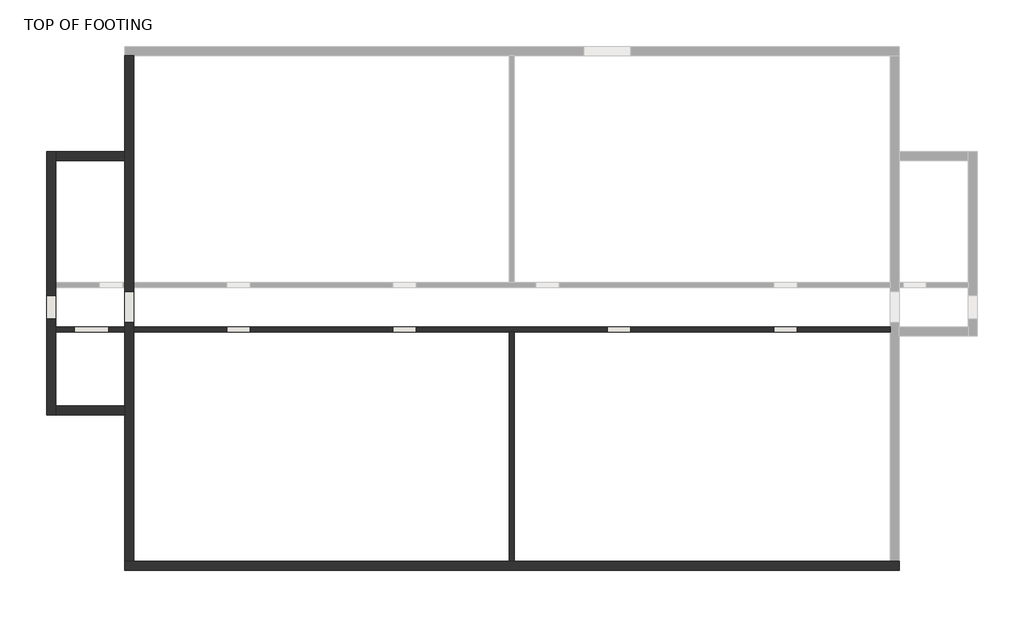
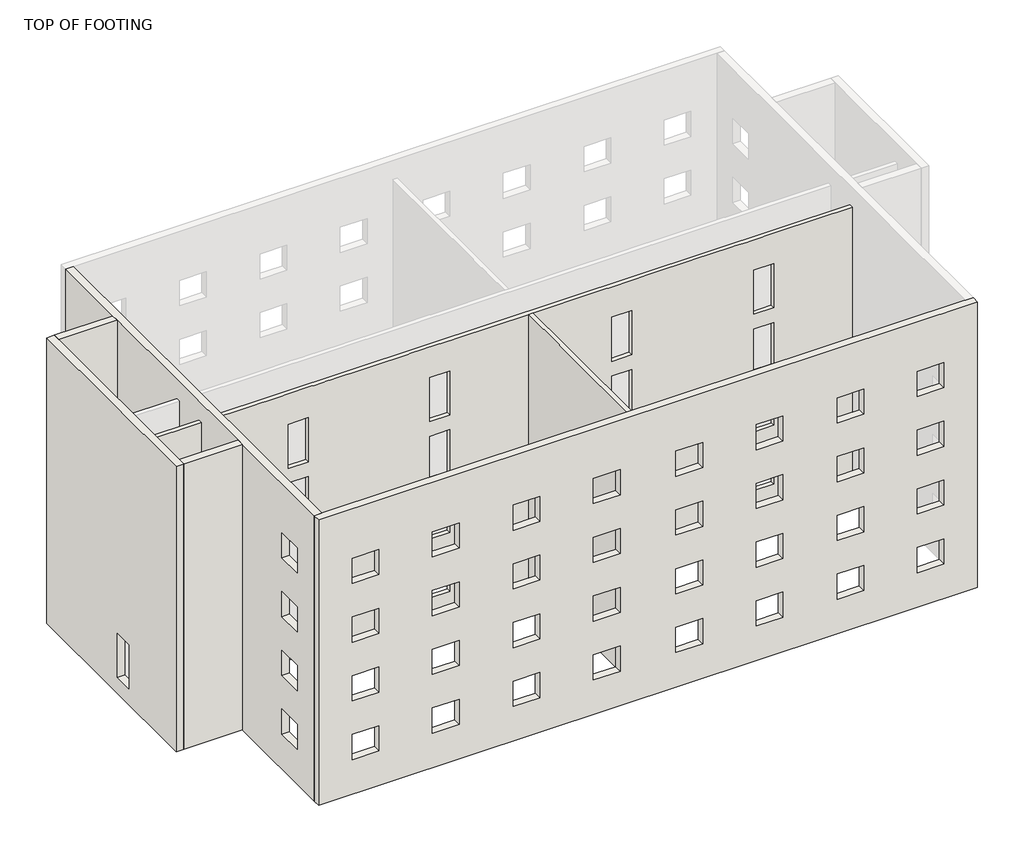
# One storey, part 1 of 2: 7 walls.
"""IFC4 building model written with IfcOpenShell, lengths in millimetres."""

from ifc_helpers import new_model, si_unit, frame, origin, place, context, project, spatial, polyline, outline, extrude, faceted_brep, element, save

model = new_model("IFC4")

# Units and contexts
model_context = context("Model", 3, world=origin())
ifc_project = project(units=[si_unit("LENGTHUNIT", "METRE", prefix="MILLI")], contexts=[model_context])

# Site, building, storey
site = spatial("IfcSite", under=ifc_project)
building = spatial("IfcBuilding", under=site)
storey = spatial("IfcBuildingStorey", under=building, Name="TOP OF FOOTING", Elevation=-762.0)

# Walls
placement = place(None, origin())
element("IfcWall", 1, ObjectType="A30A - 8\" MASONRY WALL", at=placement, inside=storey, context=model_context, shape_type="Brep", body=[
    faceted_brep([(24257.1084875, 4539.2137881, -762.0), (24257.1084875, 4539.2137881, 12141.2), (20915.5834875, 4539.2137881, 12141.2), (20791.7584875, 4539.2137881, 12141.2), (19572.5584875, 4539.2137881, 12141.2), (19448.7334875, 4539.2137881, 12141.2), (18839.1334875, 4539.2137881, 12141.2), (18715.3084875, 4539.2137881, 12141.2), (17039.7084875, 4539.2137881, 12141.2), (16845.7084875, 4539.2137881, 12141.2), (15170.1084875, 4539.2137881, 12141.2), (15046.2834875, 4539.2137881, 12141.2), (14436.6834875, 4539.2137881, 12141.2), (14312.8584875, 4539.2137881, 12141.2), (13093.6584875, 4539.2137881, 12141.2), (12969.8334875, 4539.2137881, 12141.2), (9622.1084875, 4539.2137881, 12141.2), (9428.1084875, 4539.2137881, 12141.2), (6091.9834875, 4539.2137881, 12141.2), (5968.1584875, 4539.2137881, 12141.2), (4748.9584875, 4539.2137881, 12141.2), (4625.1334875, 4539.2137881, 12141.2), (3980.6084875, 4539.2137881, 12141.2), (3891.7084875, 4539.2137881, 12141.2), (2215.3084875, 4539.2137881, 12141.2), (2021.3084875, 4539.2137881, 12141.2), (344.9084875, 4539.2137881, 12141.2), (256.0084875, 4539.2137881, 12141.2), (-388.5165125, 4539.2137881, 12141.2), (-512.3415125, 4539.2137881, 12141.2), (-1731.5415125, 4539.2137881, 12141.2), (-1855.3665125, 4539.2137881, 12141.2), (-5196.8915125, 4539.2137881, 12141.2), (-5196.8915125, 4539.2137881, -762.0), (9428.1084875, 4539.2137881, -762.0), (9622.1084875, 4539.2137881, -762.0), (-664.7415125, 4539.2137881, 0.0), (-1579.1415125, 4539.2137881, 0.0), (-1579.1415125, 4539.2137881, 2133.6), (-664.7415125, 4539.2137881, 2133.6), (5815.7584875, 4539.2137881, 0.0), (4901.3584875, 4539.2137881, 0.0), (4901.3584875, 4539.2137881, 2133.6), (5815.7584875, 4539.2137881, 2133.6), (20639.3584875, 4539.2137881, 0.0), (19724.9584875, 4539.2137881, 0.0), (19724.9584875, 4539.2137881, 2133.6), (20639.3584875, 4539.2137881, 2133.6), (14160.4584875, 4539.2137881, 0.0), (13246.0584875, 4539.2137881, 0.0), (13246.0584875, 4539.2137881, 2133.6), (14160.4584875, 4539.2137881, 2133.6), (-664.7415125, 4539.2137881, 2844.8), (-1579.1415125, 4539.2137881, 2844.8), (-1579.1415125, 4539.2137881, 4978.4), (-664.7415125, 4539.2137881, 4978.4), (5815.7584875, 4539.2137881, 2844.8), (4901.3584875, 4539.2137881, 2844.8), (4901.3584875, 4539.2137881, 4978.4), (5815.7584875, 4539.2137881, 4978.4), (14148.8584875, 4539.2137881, 2844.8), (13234.4584875, 4539.2137881, 2844.8), (13234.4584875, 4539.2137881, 4978.4), (14148.8584875, 4539.2137881, 4978.4), (20650.9584875, 4539.2137881, 2844.8), (19736.5584875, 4539.2137881, 2844.8), (19736.5584875, 4539.2137881, 4978.4), (20650.9584875, 4539.2137881, 4978.4), (-664.7415125, 4539.2137881, 5689.6), (-1579.1415125, 4539.2137881, 5689.6), (-1579.1415125, 4539.2137881, 7823.2), (-664.7415125, 4539.2137881, 7823.2), (5815.7584875, 4539.2137881, 5689.6), (4901.3584875, 4539.2137881, 5689.6), (4901.3584875, 4539.2137881, 7823.2), (5815.7584875, 4539.2137881, 7823.2), (14148.8584875, 4539.2137881, 5689.6), (13234.4584875, 4539.2137881, 5689.6), (13234.4584875, 4539.2137881, 7823.2), (14148.8584875, 4539.2137881, 7823.2), (20650.9584875, 4539.2137881, 5689.6), (19736.5584875, 4539.2137881, 5689.6), (19736.5584875, 4539.2137881, 7823.2), (20650.9584875, 4539.2137881, 7823.2), (-664.7415125, 4539.2137881, 8534.4), (-1579.1415125, 4539.2137881, 8534.4), (-1579.1415125, 4539.2137881, 10668.0), (-664.7415125, 4539.2137881, 10668.0), (5815.7584875, 4539.2137881, 8534.4), (4901.3584875, 4539.2137881, 8534.4), (4901.3584875, 4539.2137881, 10668.0), (5815.7584875, 4539.2137881, 10668.0), (14148.8584875, 4539.2137881, 8534.4), (13234.4584875, 4539.2137881, 8534.4), (13234.4584875, 4539.2137881, 10668.0), (14148.8584875, 4539.2137881, 10668.0), (20650.9584875, 4539.2137881, 8534.4), (19736.5584875, 4539.2137881, 8534.4), (19736.5584875, 4539.2137881, 10668.0), (20650.9584875, 4539.2137881, 10668.0), (24257.1084875, 4733.2137881, 12141.2), (24257.1084875, 4733.2137881, -762.0), (-5196.8915125, 4733.2137881, -762.0), (-5196.8915125, 4733.2137881, 12141.2), (-1579.1415125, 4733.2137881, 0.0), (-664.7415125, 4733.2137881, 0.0), (-664.7415125, 4733.2137881, 2133.6), (-1579.1415125, 4733.2137881, 2133.6), (4901.3584875, 4733.2137881, 0.0), (5815.7584875, 4733.2137881, 0.0), (5815.7584875, 4733.2137881, 2133.6), (4901.3584875, 4733.2137881, 2133.6), (19724.9584875, 4733.2137881, 0.0), (20639.3584875, 4733.2137881, 0.0), (20639.3584875, 4733.2137881, 2133.6), (19724.9584875, 4733.2137881, 2133.6), (13246.0584875, 4733.2137881, 0.0), (14160.4584875, 4733.2137881, 0.0), (14160.4584875, 4733.2137881, 2133.6), (13246.0584875, 4733.2137881, 2133.6), (-1579.1415125, 4733.2137881, 2844.8), (-664.7415125, 4733.2137881, 2844.8), (-664.7415125, 4733.2137881, 4978.4), (-1579.1415125, 4733.2137881, 4978.4), (4901.3584875, 4733.2137881, 2844.8), (5815.7584875, 4733.2137881, 2844.8), (5815.7584875, 4733.2137881, 4978.4), (4901.3584875, 4733.2137881, 4978.4), (13234.4584875, 4733.2137881, 2844.8), (14148.8584875, 4733.2137881, 2844.8), (14148.8584875, 4733.2137881, 4978.4), (13234.4584875, 4733.2137881, 4978.4), (19736.5584875, 4733.2137881, 2844.8), (20650.9584875, 4733.2137881, 2844.8), (20650.9584875, 4733.2137881, 4978.4), (19736.5584875, 4733.2137881, 4978.4), (-1579.1415125, 4733.2137881, 5689.6), (-664.7415125, 4733.2137881, 5689.6), (-664.7415125, 4733.2137881, 7823.2), (-1579.1415125, 4733.2137881, 7823.2), (4901.3584875, 4733.2137881, 5689.6), (5815.7584875, 4733.2137881, 5689.6), (5815.7584875, 4733.2137881, 7823.2), (4901.3584875, 4733.2137881, 7823.2), (13234.4584875, 4733.2137881, 5689.6), (14148.8584875, 4733.2137881, 5689.6), (14148.8584875, 4733.2137881, 7823.2), (13234.4584875, 4733.2137881, 7823.2), (19736.5584875, 4733.2137881, 5689.6), (20650.9584875, 4733.2137881, 5689.6), (20650.9584875, 4733.2137881, 7823.2), (19736.5584875, 4733.2137881, 7823.2), (-1579.1415125, 4733.2137881, 8534.4), (-664.7415125, 4733.2137881, 8534.4), (-664.7415125, 4733.2137881, 10668.0), (-1579.1415125, 4733.2137881, 10668.0), (4901.3584875, 4733.2137881, 8534.4), (5815.7584875, 4733.2137881, 8534.4), (5815.7584875, 4733.2137881, 10668.0), (4901.3584875, 4733.2137881, 10668.0), (13234.4584875, 4733.2137881, 8534.4), (14148.8584875, 4733.2137881, 8534.4), (14148.8584875, 4733.2137881, 10668.0), (13234.4584875, 4733.2137881, 10668.0), (19736.5584875, 4733.2137881, 8534.4), (20650.9584875, 4733.2137881, 8534.4), (20650.9584875, 4733.2137881, 10668.0), (19736.5584875, 4733.2137881, 10668.0)], [[[0, 1, 2, 3, 4, 5, 6, 7, 8, 9, 10, 11, 12, 13, 14, 15, 16, 17, 18, 19, 20, 21, 22, 23, 24, 25, 26, 27, 28, 29, 30, 31, 32, 33, 34, 35], [36, 37, 38, 39], [40, 41, 42, 43], [44, 45, 46, 47], [48, 49, 50, 51], [52, 53, 54, 55], [56, 57, 58, 59], [60, 61, 62, 63], [64, 65, 66, 67], [68, 69, 70, 71], [72, 73, 74, 75], [76, 77, 78, 79], [80, 81, 82, 83], [84, 85, 86, 87], [88, 89, 90, 91], [92, 93, 94, 95], [96, 97, 98, 99]], [[100, 101, 102, 103], [104, 105, 106, 107], [108, 109, 110, 111], [112, 113, 114, 115], [116, 117, 118, 119], [120, 121, 122, 123], [124, 125, 126, 127], [128, 129, 130, 131], [132, 133, 134, 135], [136, 137, 138, 139], [140, 141, 142, 143], [144, 145, 146, 147], [148, 149, 150, 151], [152, 153, 154, 155], [156, 157, 158, 159], [160, 161, 162, 163], [164, 165, 166, 167]], [[101, 0, 35, 34, 33, 102]], [[1, 100, 103, 32, 31, 30, 29, 28, 27, 26, 25, 24, 23, 22, 21, 20, 19, 18, 17, 16, 15, 14, 13, 12, 11, 10, 9, 8, 7, 6, 5, 4, 3, 2]], [[1, 0, 101, 100]], [[33, 32, 103, 102]], [[37, 36, 105, 104]], [[38, 37, 104, 107]], [[39, 38, 107, 106]], [[36, 39, 106, 105]], [[109, 108, 41, 40]], [[110, 109, 40, 43]], [[111, 110, 43, 42]], [[108, 111, 42, 41]], [[113, 112, 45, 44]], [[114, 113, 44, 47]], [[115, 114, 47, 46]], [[112, 115, 46, 45]], [[49, 48, 117, 116]], [[50, 49, 116, 119]], [[51, 50, 119, 118]], [[48, 51, 118, 117]], [[53, 52, 121, 120]], [[54, 53, 120, 123]], [[55, 54, 123, 122]], [[52, 55, 122, 121]], [[125, 124, 57, 56]], [[126, 125, 56, 59]], [[127, 126, 59, 58]], [[124, 127, 58, 57]], [[61, 60, 129, 128]], [[62, 61, 128, 131]], [[63, 62, 131, 130]], [[60, 63, 130, 129]], [[133, 132, 65, 64]], [[134, 133, 64, 67]], [[135, 134, 67, 66]], [[132, 135, 66, 65]], [[69, 68, 137, 136]], [[70, 69, 136, 139]], [[71, 70, 139, 138]], [[68, 71, 138, 137]], [[141, 140, 73, 72]], [[142, 141, 72, 75]], [[143, 142, 75, 74]], [[140, 143, 74, 73]], [[77, 76, 145, 144]], [[78, 77, 144, 147]], [[79, 78, 147, 146]], [[76, 79, 146, 145]], [[149, 148, 81, 80]], [[150, 149, 80, 83]], [[151, 150, 83, 82]], [[148, 151, 82, 81]], [[85, 84, 153, 152]], [[86, 85, 152, 155]], [[87, 86, 155, 154]], [[84, 87, 154, 153]], [[157, 156, 89, 88]], [[158, 157, 88, 91]], [[159, 158, 91, 90]], [[156, 159, 90, 89]], [[93, 92, 161, 160]], [[94, 93, 160, 163]], [[95, 94, 163, 162]], [[92, 95, 162, 161]], [[165, 164, 97, 96]], [[166, 165, 96, 99]], [[167, 166, 99, 98]], [[164, 167, 98, 97]]]),
    faceted_brep([(-8237.806756, 4539.2137881, 12141.2), (-8237.806756, 4539.2137881, -762.0), (-5546.8915125, 4539.2137881, -762.0), (-5546.8915125, 4539.2137881, 12141.2), (-7511.3967746, 4539.2137881, 2100.0), (-6171.3932087, 4539.2137881, 2100.0), (-6171.3932087, 4539.2137881, 0.0), (-7511.3967746, 4539.2137881, 0.0), (-8237.806756, 4733.2137881, -762.0), (-8237.806756, 4733.2137881, 12141.2), (-5546.8915125, 4733.2137881, 12141.2), (-5546.8915125, 4733.2137881, -762.0), (-6171.3932087, 4733.2137881, 2100.0), (-7511.3967746, 4733.2137881, 2100.0), (-7511.3967746, 4733.2137881, 0.0), (-6171.3932087, 4733.2137881, 0.0)], [[[0, 1, 2, 3], [4, 5, 6, 7]], [[8, 9, 10, 11], [12, 13, 14, 15]], [[1, 8, 11, 2]], [[9, 0, 3, 10]], [[3, 2, 11, 10]], [[1, 0, 9, 8]], [[5, 4, 13, 12]], [[6, 5, 12, 15]], [[7, 6, 15, 14]], [[4, 7, 14, 13]]]),
])
element("IfcWall", 2, ObjectType="A30A - 8\" MASONRY WALL", at=placement, inside=storey, context=model_context, shape_type="Brep", body=[
    faceted_brep([(9428.1084875, 4539.2137881, -762.0), (9428.1084875, -4401.5862119, -762.0), (9428.1084875, -4401.5862119, 12141.2), (9428.1084875, 2027.7887881, 12141.2), (9428.1084875, 2151.6137881, 12141.2), (9428.1084875, 4539.2137881, 12141.2), (9622.1084875, 4539.2137881, -762.0), (9622.1084875, 4539.2137881, 12141.2), (9622.1084875, 2151.6137881, 12141.2), (9622.1084875, 2027.7887881, 12141.2), (9622.1084875, -4401.5862119, 12141.2), (9622.1084875, -4401.5862119, -762.0)], [[[0, 1, 2, 3, 4, 5]], [[6, 7, 8, 9, 10, 11]], [[1, 0, 6, 11]], [[5, 4, 3, 2, 10, 9, 8, 7]], [[2, 1, 11, 10]], [[0, 5, 7, 6]]]),
])
element("IfcWall", 3, ObjectType="Exterior - Brick on Mtl. Stud", at=placement, inside=storey, context=model_context, shape_type="Brep", body=[
    faceted_brep([(-8237.806756, 1291.6137881, -762.0), (-8237.806756, 1641.6137881, -762.0), (-8237.806756, 4539.2137881, -762.0), (-8237.806756, 4733.2137881, -762.0), (-8237.806756, 6266.4137881, -762.0), (-8237.806756, 6460.4137881, -762.0), (-8237.806756, 11207.8006, -762.0), (-8237.806756, 11557.8006, -762.0), (-8237.806756, 11557.8006, 13055.6), (-8237.806756, 11207.8006, 13055.6), (-8237.806756, 1641.6137881, 13055.6), (-8237.806756, 1291.6137881, 13055.6), (-8237.806756, 5957.0137881, 0.0), (-8237.806756, 5042.6137881, 0.0), (-8237.806756, 5042.6137881, 2133.6), (-8237.806756, 5957.0137881, 2133.6), (-8587.806756, 1291.6137881, -762.0), (-8587.806756, 1291.6137881, 13055.6), (-8587.806756, 11557.8006, 13055.6), (-8587.806756, 11557.8006, -762.0), (-8587.806756, 5957.0137881, 0.0), (-8587.806756, 5957.0137881, 2133.6), (-8587.806756, 5042.6137881, 2133.6), (-8587.806756, 5042.6137881, 0.0)], [[[0, 1, 2, 3, 4, 5, 6, 7, 8, 9, 10, 11], [12, 13, 14, 15]], [[16, 17, 18, 19], [20, 21, 22, 23]], [[7, 6, 5, 4, 3, 2, 1, 0, 16, 19]], [[11, 10, 9, 8, 18, 17]], [[8, 7, 19, 18]], [[0, 11, 17, 16]], [[13, 12, 20, 23]], [[14, 13, 23, 22]], [[15, 14, 22, 21]], [[12, 15, 21, 20]]]),
])
element("IfcWall", 4, ObjectType="Exterior - Brick on Mtl. Stud", at=placement, inside=storey, context=model_context, shape_type="Brep", body=[
    faceted_brep([(24607.1084875, -4401.5862119, -762.0), (24257.1084875, -4401.5862119, -762.0), (9622.1084875, -4401.5862119, -762.0), (9428.1084875, -4401.5862119, -762.0), (-5196.8915125, -4401.5862119, -762.0), (-5546.8915125, -4401.5862119, -762.0), (-5546.8915125, -4401.5862119, 13055.6), (-5196.8915125, -4401.5862119, 13055.6), (24257.1084875, -4401.5862119, 13055.6), (24607.1084875, -4401.5862119, 13055.6), (18179.4522375, -4401.5862119, 2133.6), (18179.4522375, -4401.5862119, 914.4), (19398.6522375, -4401.5862119, 914.4), (19398.6522375, -4401.5862119, 2133.6), (21850.4647375, -4401.5862119, 2133.6), (21850.4647375, -4401.5862119, 914.4), (23069.6647375, -4401.5862119, 914.4), (23069.6647375, -4401.5862119, 2133.6), (3355.0522375, -4401.5862119, 2133.6), (3355.0522375, -4401.5862119, 914.4), (4574.2522375, -4401.5862119, 914.4), (4574.2522375, -4401.5862119, 2133.6), (7026.0647375, -4401.5862119, 2133.6), (7026.0647375, -4401.5862119, 914.4), (8245.2647375, -4401.5862119, 914.4), (8245.2647375, -4401.5862119, 2133.6), (881.5647375, -4401.5862119, 2133.6), (-337.6352625, -4401.5862119, 2133.6), (-337.6352625, -4401.5862119, 914.4), (881.5647375, -4401.5862119, 914.4), (-2789.4477625, -4401.5862119, 2133.6), (-4008.6477625, -4401.5862119, 2133.6), (-4008.6477625, -4401.5862119, 914.4), (-2789.4477625, -4401.5862119, 914.4), (15695.1647375, -4401.5862119, 2133.6), (14475.9647375, -4401.5862119, 2133.6), (14475.9647375, -4401.5862119, 914.4), (15695.1647375, -4401.5862119, 914.4), (12024.1522375, -4401.5862119, 2133.6), (10804.9522375, -4401.5862119, 2133.6), (10804.9522375, -4401.5862119, 914.4), (12024.1522375, -4401.5862119, 914.4), (15695.1647375, -4401.5862119, 4978.4), (14475.9647375, -4401.5862119, 4978.4), (14475.9647375, -4401.5862119, 3759.2), (15695.1647375, -4401.5862119, 3759.2), (12024.1522375, -4401.5862119, 4978.4), (10804.9522375, -4401.5862119, 4978.4), (10804.9522375, -4401.5862119, 3759.2), (12024.1522375, -4401.5862119, 3759.2), (18179.4522375, -4401.5862119, 4978.4), (18179.4522375, -4401.5862119, 3759.2), (19398.6522375, -4401.5862119, 3759.2), (19398.6522375, -4401.5862119, 4978.4), (21850.4647375, -4401.5862119, 4978.4), (21850.4647375, -4401.5862119, 3759.2), (23069.6647375, -4401.5862119, 3759.2), (23069.6647375, -4401.5862119, 4978.4), (3355.0522375, -4401.5862119, 4978.4), (3355.0522375, -4401.5862119, 3759.2), (4574.2522375, -4401.5862119, 3759.2), (4574.2522375, -4401.5862119, 4978.4), (7026.0647375, -4401.5862119, 4978.4), (7026.0647375, -4401.5862119, 3759.2), (8245.2647375, -4401.5862119, 3759.2), (8245.2647375, -4401.5862119, 4978.4), (881.5647375, -4401.5862119, 4978.4), (-337.6352625, -4401.5862119, 4978.4), (-337.6352625, -4401.5862119, 3759.2), (881.5647375, -4401.5862119, 3759.2), (-2789.4477625, -4401.5862119, 4978.4), (-4008.6477625, -4401.5862119, 4978.4), (-4008.6477625, -4401.5862119, 3759.2), (-2789.4477625, -4401.5862119, 3759.2), (15695.1647375, -4401.5862119, 7823.2), (14475.9647375, -4401.5862119, 7823.2), (14475.9647375, -4401.5862119, 6604.0), (15695.1647375, -4401.5862119, 6604.0), (12024.1522375, -4401.5862119, 7823.2), (10804.9522375, -4401.5862119, 7823.2), (10804.9522375, -4401.5862119, 6604.0), (12024.1522375, -4401.5862119, 6604.0), (18179.4522375, -4401.5862119, 7823.2), (18179.4522375, -4401.5862119, 6604.0), (19398.6522375, -4401.5862119, 6604.0), (19398.6522375, -4401.5862119, 7823.2), (21850.4647375, -4401.5862119, 7823.2), (21850.4647375, -4401.5862119, 6604.0), (23069.6647375, -4401.5862119, 6604.0), (23069.6647375, -4401.5862119, 7823.2), (3355.0522375, -4401.5862119, 7823.2), (3355.0522375, -4401.5862119, 6604.0), (4574.2522375, -4401.5862119, 6604.0), (4574.2522375, -4401.5862119, 7823.2), (7026.0647375, -4401.5862119, 7823.2), (7026.0647375, -4401.5862119, 6604.0), (8245.2647375, -4401.5862119, 6604.0), (8245.2647375, -4401.5862119, 7823.2), (881.5647375, -4401.5862119, 7823.2), (-337.6352625, -4401.5862119, 7823.2), (-337.6352625, -4401.5862119, 6604.0), (881.5647375, -4401.5862119, 6604.0), (-2789.4477625, -4401.5862119, 7823.2), (-4008.6477625, -4401.5862119, 7823.2), (-4008.6477625, -4401.5862119, 6604.0), (-2789.4477625, -4401.5862119, 6604.0), (15695.1647375, -4401.5862119, 10668.0), (14475.9647375, -4401.5862119, 10668.0), (14475.9647375, -4401.5862119, 9448.8), (15695.1647375, -4401.5862119, 9448.8), (12024.1522375, -4401.5862119, 10668.0), (10804.9522375, -4401.5862119, 10668.0), (10804.9522375, -4401.5862119, 9448.8), (12024.1522375, -4401.5862119, 9448.8), (18179.4522375, -4401.5862119, 10668.0), (18179.4522375, -4401.5862119, 9448.8), (19398.6522375, -4401.5862119, 9448.8), (19398.6522375, -4401.5862119, 10668.0), (21850.4647375, -4401.5862119, 10668.0), (21850.4647375, -4401.5862119, 9448.8), (23069.6647375, -4401.5862119, 9448.8), (23069.6647375, -4401.5862119, 10668.0), (3355.0522375, -4401.5862119, 10668.0), (3355.0522375, -4401.5862119, 9448.8), (4574.2522375, -4401.5862119, 9448.8), (4574.2522375, -4401.5862119, 10668.0), (7026.0647375, -4401.5862119, 10668.0), (7026.0647375, -4401.5862119, 9448.8), (8245.2647375, -4401.5862119, 9448.8), (8245.2647375, -4401.5862119, 10668.0), (881.5647375, -4401.5862119, 10668.0), (-337.6352625, -4401.5862119, 10668.0), (-337.6352625, -4401.5862119, 9448.8), (881.5647375, -4401.5862119, 9448.8), (-2789.4477625, -4401.5862119, 10668.0), (-4008.6477625, -4401.5862119, 10668.0), (-4008.6477625, -4401.5862119, 9448.8), (-2789.4477625, -4401.5862119, 9448.8), (24607.1084875, -4751.5862119, -762.0), (24607.1084875, -4751.5862119, 13055.6), (-5546.8915125, -4751.5862119, 13055.6), (-5546.8915125, -4751.5862119, -762.0), (18179.4522375, -4751.5862119, 2133.6), (19398.6522375, -4751.5862119, 2133.6), (19398.6522375, -4751.5862119, 914.4), (18179.4522375, -4751.5862119, 914.4), (21850.4647375, -4751.5862119, 2133.6), (23069.6647375, -4751.5862119, 2133.6), (23069.6647375, -4751.5862119, 914.4), (21850.4647375, -4751.5862119, 914.4), (3355.0522375, -4751.5862119, 2133.6), (4574.2522375, -4751.5862119, 2133.6), (4574.2522375, -4751.5862119, 914.4), (3355.0522375, -4751.5862119, 914.4), (7026.0647375, -4751.5862119, 2133.6), (8245.2647375, -4751.5862119, 2133.6), (8245.2647375, -4751.5862119, 914.4), (7026.0647375, -4751.5862119, 914.4), (881.5647375, -4751.5862119, 2133.6), (881.5647375, -4751.5862119, 914.4), (-337.6352625, -4751.5862119, 914.4), (-337.6352625, -4751.5862119, 2133.6), (-2789.4477625, -4751.5862119, 2133.6), (-2789.4477625, -4751.5862119, 914.4), (-4008.6477625, -4751.5862119, 914.4), (-4008.6477625, -4751.5862119, 2133.6), (15695.1647375, -4751.5862119, 2133.6), (15695.1647375, -4751.5862119, 914.4), (14475.9647375, -4751.5862119, 914.4), (14475.9647375, -4751.5862119, 2133.6), (12024.1522375, -4751.5862119, 2133.6), (12024.1522375, -4751.5862119, 914.4), (10804.9522375, -4751.5862119, 914.4), (10804.9522375, -4751.5862119, 2133.6), (15695.1647375, -4751.5862119, 4978.4), (15695.1647375, -4751.5862119, 3759.2), (14475.9647375, -4751.5862119, 3759.2), (14475.9647375, -4751.5862119, 4978.4), (12024.1522375, -4751.5862119, 4978.4), (12024.1522375, -4751.5862119, 3759.2), (10804.9522375, -4751.5862119, 3759.2), (10804.9522375, -4751.5862119, 4978.4), (18179.4522375, -4751.5862119, 4978.4), (19398.6522375, -4751.5862119, 4978.4), (19398.6522375, -4751.5862119, 3759.2), (18179.4522375, -4751.5862119, 3759.2), (21850.4647375, -4751.5862119, 4978.4), (23069.6647375, -4751.5862119, 4978.4), (23069.6647375, -4751.5862119, 3759.2), (21850.4647375, -4751.5862119, 3759.2), (3355.0522375, -4751.5862119, 4978.4), (4574.2522375, -4751.5862119, 4978.4), (4574.2522375, -4751.5862119, 3759.2), (3355.0522375, -4751.5862119, 3759.2), (7026.0647375, -4751.5862119, 4978.4), (8245.2647375, -4751.5862119, 4978.4), (8245.2647375, -4751.5862119, 3759.2), (7026.0647375, -4751.5862119, 3759.2), (881.5647375, -4751.5862119, 4978.4), (881.5647375, -4751.5862119, 3759.2), (-337.6352625, -4751.5862119, 3759.2), (-337.6352625, -4751.5862119, 4978.4), (-2789.4477625, -4751.5862119, 4978.4), (-2789.4477625, -4751.5862119, 3759.2), (-4008.6477625, -4751.5862119, 3759.2), (-4008.6477625, -4751.5862119, 4978.4), (15695.1647375, -4751.5862119, 7823.2), (15695.1647375, -4751.5862119, 6604.0), (14475.9647375, -4751.5862119, 6604.0), (14475.9647375, -4751.5862119, 7823.2), (12024.1522375, -4751.5862119, 7823.2), (12024.1522375, -4751.5862119, 6604.0), (10804.9522375, -4751.5862119, 6604.0), (10804.9522375, -4751.5862119, 7823.2), (18179.4522375, -4751.5862119, 7823.2), (19398.6522375, -4751.5862119, 7823.2), (19398.6522375, -4751.5862119, 6604.0), (18179.4522375, -4751.5862119, 6604.0), (21850.4647375, -4751.5862119, 7823.2), (23069.6647375, -4751.5862119, 7823.2), (23069.6647375, -4751.5862119, 6604.0), (21850.4647375, -4751.5862119, 6604.0), (3355.0522375, -4751.5862119, 7823.2), (4574.2522375, -4751.5862119, 7823.2), (4574.2522375, -4751.5862119, 6604.0), (3355.0522375, -4751.5862119, 6604.0), (7026.0647375, -4751.5862119, 7823.2), (8245.2647375, -4751.5862119, 7823.2), (8245.2647375, -4751.5862119, 6604.0), (7026.0647375, -4751.5862119, 6604.0), (881.5647375, -4751.5862119, 7823.2), (881.5647375, -4751.5862119, 6604.0), (-337.6352625, -4751.5862119, 6604.0), (-337.6352625, -4751.5862119, 7823.2), (-2789.4477625, -4751.5862119, 7823.2), (-2789.4477625, -4751.5862119, 6604.0), (-4008.6477625, -4751.5862119, 6604.0), (-4008.6477625, -4751.5862119, 7823.2), (15695.1647375, -4751.5862119, 10668.0), (15695.1647375, -4751.5862119, 9448.8), (14475.9647375, -4751.5862119, 9448.8), (14475.9647375, -4751.5862119, 10668.0), (12024.1522375, -4751.5862119, 10668.0), (12024.1522375, -4751.5862119, 9448.8), (10804.9522375, -4751.5862119, 9448.8), (10804.9522375, -4751.5862119, 10668.0), (18179.4522375, -4751.5862119, 10668.0), (19398.6522375, -4751.5862119, 10668.0), (19398.6522375, -4751.5862119, 9448.8), (18179.4522375, -4751.5862119, 9448.8), (21850.4647375, -4751.5862119, 10668.0), (23069.6647375, -4751.5862119, 10668.0), (23069.6647375, -4751.5862119, 9448.8), (21850.4647375, -4751.5862119, 9448.8), (3355.0522375, -4751.5862119, 10668.0), (4574.2522375, -4751.5862119, 10668.0), (4574.2522375, -4751.5862119, 9448.8), (3355.0522375, -4751.5862119, 9448.8), (7026.0647375, -4751.5862119, 10668.0), (8245.2647375, -4751.5862119, 10668.0), (8245.2647375, -4751.5862119, 9448.8), (7026.0647375, -4751.5862119, 9448.8), (881.5647375, -4751.5862119, 10668.0), (881.5647375, -4751.5862119, 9448.8), (-337.6352625, -4751.5862119, 9448.8), (-337.6352625, -4751.5862119, 10668.0), (-2789.4477625, -4751.5862119, 10668.0), (-2789.4477625, -4751.5862119, 9448.8), (-4008.6477625, -4751.5862119, 9448.8), (-4008.6477625, -4751.5862119, 10668.0)], [[[0, 1, 2, 3, 4, 5, 6, 7, 8, 9], [10, 11, 12, 13], [14, 15, 16, 17], [18, 19, 20, 21], [22, 23, 24, 25], [26, 27, 28, 29], [30, 31, 32, 33], [34, 35, 36, 37], [38, 39, 40, 41], [42, 43, 44, 45], [46, 47, 48, 49], [50, 51, 52, 53], [54, 55, 56, 57], [58, 59, 60, 61], [62, 63, 64, 65], [66, 67, 68, 69], [70, 71, 72, 73], [74, 75, 76, 77], [78, 79, 80, 81], [82, 83, 84, 85], [86, 87, 88, 89], [90, 91, 92, 93], [94, 95, 96, 97], [98, 99, 100, 101], [102, 103, 104, 105], [106, 107, 108, 109], [110, 111, 112, 113], [114, 115, 116, 117], [118, 119, 120, 121], [122, 123, 124, 125], [126, 127, 128, 129], [130, 131, 132, 133], [134, 135, 136, 137]], [[138, 139, 140, 141], [142, 143, 144, 145], [146, 147, 148, 149], [150, 151, 152, 153], [154, 155, 156, 157], [158, 159, 160, 161], [162, 163, 164, 165], [166, 167, 168, 169], [170, 171, 172, 173], [174, 175, 176, 177], [178, 179, 180, 181], [182, 183, 184, 185], [186, 187, 188, 189], [190, 191, 192, 193], [194, 195, 196, 197], [198, 199, 200, 201], [202, 203, 204, 205], [206, 207, 208, 209], [210, 211, 212, 213], [214, 215, 216, 217], [218, 219, 220, 221], [222, 223, 224, 225], [226, 227, 228, 229], [230, 231, 232, 233], [234, 235, 236, 237], [238, 239, 240, 241], [242, 243, 244, 245], [246, 247, 248, 249], [250, 251, 252, 253], [254, 255, 256, 257], [258, 259, 260, 261], [262, 263, 264, 265], [266, 267, 268, 269]], [[5, 4, 3, 2, 1, 0, 138, 141]], [[9, 8, 7, 6, 140, 139]], [[6, 5, 141, 140]], [[0, 9, 139, 138]], [[11, 10, 142, 145]], [[12, 11, 145, 144]], [[13, 12, 144, 143]], [[10, 13, 143, 142]], [[15, 14, 146, 149]], [[16, 15, 149, 148]], [[17, 16, 148, 147]], [[14, 17, 147, 146]], [[19, 18, 150, 153]], [[20, 19, 153, 152]], [[21, 20, 152, 151]], [[18, 21, 151, 150]], [[23, 22, 154, 157]], [[24, 23, 157, 156]], [[25, 24, 156, 155]], [[22, 25, 155, 154]], [[159, 158, 26, 29]], [[160, 159, 29, 28]], [[161, 160, 28, 27]], [[158, 161, 27, 26]], [[163, 162, 30, 33]], [[164, 163, 33, 32]], [[165, 164, 32, 31]], [[162, 165, 31, 30]], [[167, 166, 34, 37]], [[168, 167, 37, 36]], [[169, 168, 36, 35]], [[166, 169, 35, 34]], [[171, 170, 38, 41]], [[172, 171, 41, 40]], [[173, 172, 40, 39]], [[170, 173, 39, 38]], [[175, 174, 42, 45]], [[176, 175, 45, 44]], [[177, 176, 44, 43]], [[174, 177, 43, 42]], [[179, 178, 46, 49]], [[180, 179, 49, 48]], [[181, 180, 48, 47]], [[178, 181, 47, 46]], [[51, 50, 182, 185]], [[52, 51, 185, 184]], [[53, 52, 184, 183]], [[50, 53, 183, 182]], [[55, 54, 186, 189]], [[56, 55, 189, 188]], [[57, 56, 188, 187]], [[54, 57, 187, 186]], [[59, 58, 190, 193]], [[60, 59, 193, 192]], [[61, 60, 192, 191]], [[58, 61, 191, 190]], [[63, 62, 194, 197]], [[64, 63, 197, 196]], [[65, 64, 196, 195]], [[62, 65, 195, 194]], [[199, 198, 66, 69]], [[200, 199, 69, 68]], [[201, 200, 68, 67]], [[198, 201, 67, 66]], [[203, 202, 70, 73]], [[204, 203, 73, 72]], [[205, 204, 72, 71]], [[202, 205, 71, 70]], [[207, 206, 74, 77]], [[208, 207, 77, 76]], [[209, 208, 76, 75]], [[206, 209, 75, 74]], [[211, 210, 78, 81]], [[212, 211, 81, 80]], [[213, 212, 80, 79]], [[210, 213, 79, 78]], [[83, 82, 214, 217]], [[84, 83, 217, 216]], [[85, 84, 216, 215]], [[82, 85, 215, 214]], [[87, 86, 218, 221]], [[88, 87, 221, 220]], [[89, 88, 220, 219]], [[86, 89, 219, 218]], [[91, 90, 222, 225]], [[92, 91, 225, 224]], [[93, 92, 224, 223]], [[90, 93, 223, 222]], [[95, 94, 226, 229]], [[96, 95, 229, 228]], [[97, 96, 228, 227]], [[94, 97, 227, 226]], [[231, 230, 98, 101]], [[232, 231, 101, 100]], [[233, 232, 100, 99]], [[230, 233, 99, 98]], [[235, 234, 102, 105]], [[236, 235, 105, 104]], [[237, 236, 104, 103]], [[234, 237, 103, 102]], [[239, 238, 106, 109]], [[240, 239, 109, 108]], [[241, 240, 108, 107]], [[238, 241, 107, 106]], [[243, 242, 110, 113]], [[244, 243, 113, 112]], [[245, 244, 112, 111]], [[242, 245, 111, 110]], [[115, 114, 246, 249]], [[116, 115, 249, 248]], [[117, 116, 248, 247]], [[114, 117, 247, 246]], [[119, 118, 250, 253]], [[120, 119, 253, 252]], [[121, 120, 252, 251]], [[118, 121, 251, 250]], [[123, 122, 254, 257]], [[124, 123, 257, 256]], [[125, 124, 256, 255]], [[122, 125, 255, 254]], [[127, 126, 258, 261]], [[128, 127, 261, 260]], [[129, 128, 260, 259]], [[126, 129, 259, 258]], [[263, 262, 130, 133]], [[264, 263, 133, 132]], [[265, 264, 132, 131]], [[262, 265, 131, 130]], [[267, 266, 134, 137]], [[268, 267, 137, 136]], [[269, 268, 136, 135]], [[266, 269, 135, 134]]]),
])
element("IfcWall", 5, ObjectType="Exterior - Brick on Mtl. Stud", at=placement, inside=storey, context=model_context, shape_type="Brep", body=[
    faceted_brep([(-5196.8915125, -4401.5862119, -762.0), (-5196.8915125, 4539.2137881, -762.0), (-5196.8915125, 4733.2137881, -762.0), (-5196.8915125, 6266.4137881, -762.0), (-5196.8915125, 6460.4137881, -762.0), (-5196.8915125, 15304.2137881, -762.0), (-5196.8915125, 15304.2137881, 13055.6), (-5196.8915125, -4401.5862119, 13055.6), (-5196.8915125, 4890.2137881, 2133.6), (-5196.8915125, 6109.4137881, 2133.6), (-5196.8915125, 6109.4137881, 0.0), (-5196.8915125, 4890.2137881, 0.0), (-5196.8915125, 6109.4137881, 4978.4), (-5196.8915125, 6109.4137881, 2844.8), (-5196.8915125, 4890.2137881, 2844.8), (-5196.8915125, 4890.2137881, 4978.4), (-5196.8915125, 6109.4137881, 7823.2), (-5196.8915125, 6109.4137881, 5689.6), (-5196.8915125, 4890.2137881, 5689.6), (-5196.8915125, 4890.2137881, 7823.2), (-5196.8915125, 6109.4137881, 10668.0), (-5196.8915125, 6109.4137881, 8534.4), (-5196.8915125, 4890.2137881, 8534.4), (-5196.8915125, 4890.2137881, 10668.0), (-5196.8915125, 14040.607194, 2133.6), (-5196.8915125, 14040.607194, 914.4), (-5196.8915125, 12821.407194, 914.4), (-5196.8915125, 12821.407194, 2133.6), (-5196.8915125, -3040.9796179, 2133.6), (-5196.8915125, -1821.7796179, 2133.6), (-5196.8915125, -1821.7796179, 914.4), (-5196.8915125, -3040.9796179, 914.4), (-5196.8915125, -3040.9796179, 4978.4), (-5196.8915125, -1821.7796179, 4978.4), (-5196.8915125, -1821.7796179, 3759.2), (-5196.8915125, -3040.9796179, 3759.2), (-5196.8915125, 14040.607194, 4978.4), (-5196.8915125, 14040.607194, 3759.2), (-5196.8915125, 12821.407194, 3759.2), (-5196.8915125, 12821.407194, 4978.4), (-5196.8915125, -3040.9796179, 7823.2), (-5196.8915125, -1821.7796179, 7823.2), (-5196.8915125, -1821.7796179, 6604.0), (-5196.8915125, -3040.9796179, 6604.0), (-5196.8915125, 14040.607194, 7823.2), (-5196.8915125, 14040.607194, 6604.0), (-5196.8915125, 12821.407194, 6604.0), (-5196.8915125, 12821.407194, 7823.2), (-5196.8915125, -3040.9796179, 10668.0), (-5196.8915125, -1821.7796179, 10668.0), (-5196.8915125, -1821.7796179, 9448.8), (-5196.8915125, -3040.9796179, 9448.8), (-5196.8915125, 14040.607194, 10668.0), (-5196.8915125, 14040.607194, 9448.8), (-5196.8915125, 12821.407194, 9448.8), (-5196.8915125, 12821.407194, 10668.0), (-5546.8915125, -4401.5862119, -762.0), (-5546.8915125, -4401.5862119, 13055.6), (-5546.8915125, 1291.6137881, 13055.6), (-5546.8915125, 1641.6137881, 13055.6), (-5546.8915125, 11207.8006, 13055.6), (-5546.8915125, 11557.8006, 13055.6), (-5546.8915125, 15304.2137881, 13055.6), (-5546.8915125, 15304.2137881, -762.0), (-5546.8915125, 11557.8006, -762.0), (-5546.8915125, 11207.8006, -762.0), (-5546.8915125, 6460.4137881, -762.0), (-5546.8915125, 6266.4137881, -762.0), (-5546.8915125, 4733.2137881, -762.0), (-5546.8915125, 4539.2137881, -762.0), (-5546.8915125, 1641.6137881, -762.0), (-5546.8915125, 1291.6137881, -762.0), (-5546.8915125, 4890.2137881, 2133.6), (-5546.8915125, 4890.2137881, 0.0), (-5546.8915125, 6109.4137881, 0.0), (-5546.8915125, 6109.4137881, 2133.6), (-5546.8915125, 6109.4137881, 4978.4), (-5546.8915125, 4890.2137881, 4978.4), (-5546.8915125, 4890.2137881, 2844.8), (-5546.8915125, 6109.4137881, 2844.8), (-5546.8915125, 6109.4137881, 7823.2), (-5546.8915125, 4890.2137881, 7823.2), (-5546.8915125, 4890.2137881, 5689.6), (-5546.8915125, 6109.4137881, 5689.6), (-5546.8915125, 6109.4137881, 10668.0), (-5546.8915125, 4890.2137881, 10668.0), (-5546.8915125, 4890.2137881, 8534.4), (-5546.8915125, 6109.4137881, 8534.4), (-5546.8915125, 14040.607194, 2133.6), (-5546.8915125, 12821.407194, 2133.6), (-5546.8915125, 12821.407194, 914.4), (-5546.8915125, 14040.607194, 914.4), (-5546.8915125, -3040.9796179, 2133.6), (-5546.8915125, -3040.9796179, 914.4), (-5546.8915125, -1821.7796179, 914.4), (-5546.8915125, -1821.7796179, 2133.6), (-5546.8915125, -3040.9796179, 4978.4), (-5546.8915125, -3040.9796179, 3759.2), (-5546.8915125, -1821.7796179, 3759.2), (-5546.8915125, -1821.7796179, 4978.4), (-5546.8915125, 14040.607194, 4978.4), (-5546.8915125, 12821.407194, 4978.4), (-5546.8915125, 12821.407194, 3759.2), (-5546.8915125, 14040.607194, 3759.2), (-5546.8915125, -3040.9796179, 7823.2), (-5546.8915125, -3040.9796179, 6604.0), (-5546.8915125, -1821.7796179, 6604.0), (-5546.8915125, -1821.7796179, 7823.2), (-5546.8915125, 14040.607194, 7823.2), (-5546.8915125, 12821.407194, 7823.2), (-5546.8915125, 12821.407194, 6604.0), (-5546.8915125, 14040.607194, 6604.0), (-5546.8915125, -3040.9796179, 10668.0), (-5546.8915125, -3040.9796179, 9448.8), (-5546.8915125, -1821.7796179, 9448.8), (-5546.8915125, -1821.7796179, 10668.0), (-5546.8915125, 14040.607194, 10668.0), (-5546.8915125, 12821.407194, 10668.0), (-5546.8915125, 12821.407194, 9448.8), (-5546.8915125, 14040.607194, 9448.8)], [[[0, 1, 2, 3, 4, 5, 6, 7], [8, 9, 10, 11], [12, 13, 14, 15], [16, 17, 18, 19], [20, 21, 22, 23], [24, 25, 26, 27], [28, 29, 30, 31], [32, 33, 34, 35], [36, 37, 38, 39], [40, 41, 42, 43], [44, 45, 46, 47], [48, 49, 50, 51], [52, 53, 54, 55]], [[56, 57, 58, 59, 60, 61, 62, 63, 64, 65, 66, 67, 68, 69, 70, 71], [72, 73, 74, 75], [76, 77, 78, 79], [80, 81, 82, 83], [84, 85, 86, 87], [88, 89, 90, 91], [92, 93, 94, 95], [96, 97, 98, 99], [100, 101, 102, 103], [104, 105, 106, 107], [108, 109, 110, 111], [112, 113, 114, 115], [116, 117, 118, 119]], [[5, 4, 3, 2, 1, 0, 56, 71, 70, 69, 68, 67, 66, 65, 64, 63]], [[7, 6, 62, 61, 60, 59, 58, 57]], [[6, 5, 63, 62]], [[0, 7, 57, 56]], [[73, 72, 8, 11]], [[74, 73, 11, 10]], [[75, 74, 10, 9]], [[72, 75, 9, 8]], [[13, 12, 76, 79]], [[14, 13, 79, 78]], [[15, 14, 78, 77]], [[12, 15, 77, 76]], [[17, 16, 80, 83]], [[18, 17, 83, 82]], [[19, 18, 82, 81]], [[16, 19, 81, 80]], [[21, 20, 84, 87]], [[22, 21, 87, 86]], [[23, 22, 86, 85]], [[20, 23, 85, 84]], [[25, 24, 88, 91]], [[26, 25, 91, 90]], [[27, 26, 90, 89]], [[24, 27, 89, 88]], [[93, 92, 28, 31]], [[94, 93, 31, 30]], [[95, 94, 30, 29]], [[92, 95, 29, 28]], [[97, 96, 32, 35]], [[98, 97, 35, 34]], [[99, 98, 34, 33]], [[96, 99, 33, 32]], [[37, 36, 100, 103]], [[38, 37, 103, 102]], [[39, 38, 102, 101]], [[36, 39, 101, 100]], [[105, 104, 40, 43]], [[106, 105, 43, 42]], [[107, 106, 42, 41]], [[104, 107, 41, 40]], [[45, 44, 108, 111]], [[46, 45, 111, 110]], [[47, 46, 110, 109]], [[44, 47, 109, 108]], [[113, 112, 48, 51]], [[114, 113, 51, 50]], [[115, 114, 50, 49]], [[112, 115, 49, 48]], [[53, 52, 116, 119]], [[54, 53, 119, 118]], [[55, 54, 118, 117]], [[52, 55, 117, 116]]]),
])
element("IfcWall", 6, ObjectType="Exterior - Brick on Mtl. Stud", at=placement, inside=storey, context=model_context, shape_type="SweptSolid", body=[
    extrude(outline(polyline([(-5546.8915125, 11207.8006), (-8237.806756, 11207.8006), (-8237.806756, 11557.8006), (-5546.8915125, 11557.8006), (-5546.8915125, 11207.8006)])), frame((0.0, 0.0, -762.0), z_axis=(0.0, 0.0, 1.0), x_axis=(1.0, 0.0, 0.0)), (0.0, 0.0, 1.0), 13817.6),
])
element("IfcWall", 7, ObjectType="Exterior - Brick on Mtl. Stud", at=placement, inside=storey, context=model_context, shape_type="SweptSolid", body=[
    extrude(outline(polyline([(-5546.8915125, 1291.6137881), (-8237.806756, 1291.6137881), (-8237.806756, 1641.6137881), (-5546.8915125, 1641.6137881), (-5546.8915125, 1291.6137881)])), frame((0.0, 0.0, -762.0), z_axis=(0.0, 0.0, 1.0), x_axis=(1.0, 0.0, 0.0)), (0.0, 0.0, 1.0), 13817.6),
])

save(model, "model.ifc")
